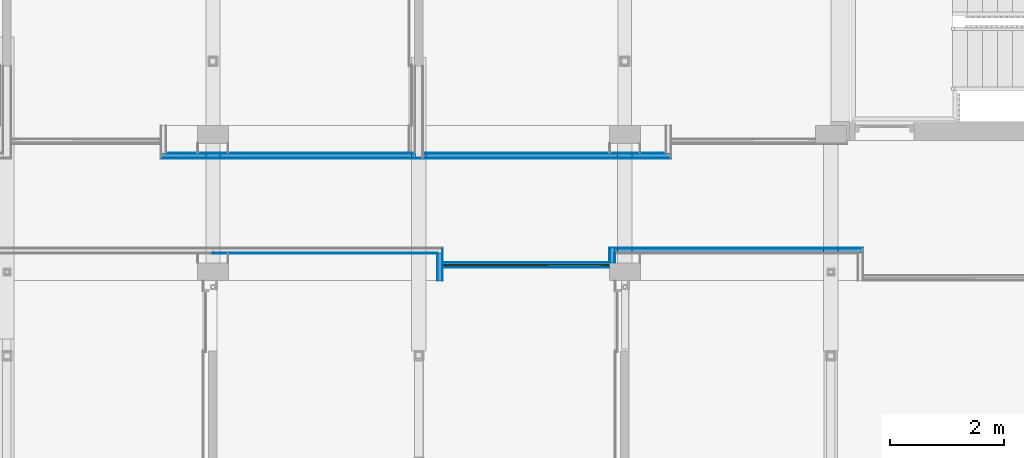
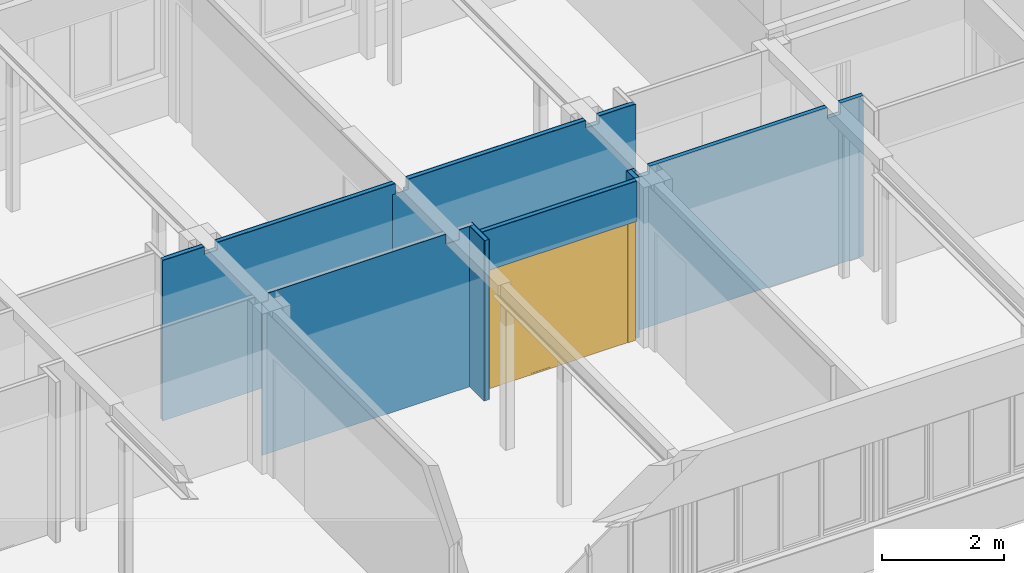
# One storey, part 86 of 117: 18 building element parts, 1 door, 1 opening, 7 elements without a shape of their own.
"""IFC2X3 building model written with IfcOpenShell, lengths in millimetres."""

from ifc_helpers import new_model, entity, si_unit, converted_unit, derived_unit, money_unit, direction, frame, origin_with_axes, place, context, subcontext, project, spatial, open_shell, faceted_brep, surface_model, material, type_object, element, fill, aggregate, save


model = new_model("IFC2X3")

# Units and contexts
model_context = context("Model", 3, precision=0.01, world=origin_with_axes(), true_north=direction((0.0, 1.0)))
body_context = subcontext(model_context, "Body", "Model", "MODEL_VIEW")
ifc_project = project(units=[si_unit("LENGTHUNIT", "METRE", prefix="MILLI"), si_unit("AREAUNIT", "SQUARE_METRE"), si_unit("VOLUMEUNIT", "CUBIC_METRE"), converted_unit("PLANEANGLEUNIT", "DEGREE", entity("IfcPlaneAngleMeasure", 0.0174532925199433), si_unit("PLANEANGLEUNIT", "RADIAN"), dimensions=[0, 0, 0, 0, 0, 0, 0]), money_unit("EUR"), converted_unit("TIMEUNIT", "Year", entity("IfcTimeMeasure", 31557600.0), si_unit("TIMEUNIT", "SECOND"), dimensions=[0, 0, 1, 0, 0, 0, 0]), si_unit("MASSUNIT", "GRAM", prefix="KILO"), si_unit("THERMODYNAMICTEMPERATUREUNIT", "DEGREE_CELSIUS"), si_unit("LUMINOUSINTENSITYUNIT", "LUMEN"), si_unit("ENERGYUNIT", "JOULE", prefix="MEGA"), derived_unit("THERMALCONDUCTANCEUNIT", [(si_unit("POWERUNIT", "WATT"), 1), (si_unit("LENGTHUNIT", "METRE"), -1), (si_unit("THERMODYNAMICTEMPERATUREUNIT", "KELVIN"), -1)]), derived_unit("SPECIFICHEATCAPACITYUNIT", [(si_unit("ENERGYUNIT", "JOULE"), 1), (si_unit("MASSUNIT", "GRAM", prefix="KILO"), -1), (si_unit("THERMODYNAMICTEMPERATUREUNIT", "KELVIN"), -1)]), derived_unit("MASSDENSITYUNIT", [(si_unit("MASSUNIT", "GRAM", prefix="KILO"), 1), (si_unit("VOLUMEUNIT", "CUBIC_METRE"), -1)])], contexts=[model_context])

# Site, building, storey
site_placement = place(None, origin_with_axes())
site = spatial("IfcSite", under=ifc_project, at=site_placement, Name="Site", CompositionType="ELEMENT")
building_placement = place(site_placement, origin_with_axes())
building = spatial("IfcBuilding", under=site, at=building_placement, Name="Naam gebouw", CompositionType="ELEMENT")
storey_placement = place(building_placement, frame((0.0, 0.0, 4150.0), z_axis=(0.0, 0.0, 1.0), x_axis=(1.0, 0.0, 0.0)))
storey = spatial("IfcBuildingStorey", under=building, at=storey_placement, Name="1e verdieping N", CompositionType="ELEMENT", Elevation=4150.0)

# Door
door_style = type_object("IfcDoorStyle", Name="D1 zl2 27", ConstructionType="NOTDEFINED", OperationType="USERDEFINED", ParameterTakesPrecedence=False, Sizeable=False)
wall_5_placement = place(storey_placement, frame((47220.00000000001, 18145.9124251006, 0.0), z_axis=(0.0, 0.0, 1.0), x_axis=(1.0, 0.0, 0.0)))
opening_placement = place(wall_5_placement, frame((1455.000000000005, 0.0, 0.0), z_axis=(0.0, 0.0, 1.0), x_axis=(1.0, 0.0, 0.0)))
door_placement = place(opening_placement, frame((1455.000000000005, 0.0, 0.0), z_axis=(0.0, 0.0, 1.0), x_axis=(-1.0, 0.0, 0.0)))
door = element("IfcDoor", 1, at=door_placement, inside=storey, type_object=door_style, Name="_Merk-x", ObjectType="DOOR", OverallHeight=2400.0, OverallWidth=2910.0, context=body_context, shape_type="SurfaceModel", body=[
    faceted_brep([(2910.000000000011, 10.00000000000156, 0.0), (2910.000000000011, -9.99999999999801, 0.0), (2880.00000000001, -9.99999999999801, 0.0), (2880.00000000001, 10.00000000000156, 0.0), (2910.000000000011, 10.00000000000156, 2370.0), (2910.000000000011, -9.99999999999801, 2370.0), (2880.00000000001, -9.99999999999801, 2370.0), (2880.00000000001, -9.99999999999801, 30.00000000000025), (2880.00000000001, 10.00000000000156, 30.00000000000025), (2880.00000000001, 10.00000000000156, 2370.0)], [[[0, 1, 2, 3]], [[4, 5, 1, 0]], [[1, 5, 6, 7, 2]], [[3, 2, 7, 8]], [[0, 3, 8, 9, 4]], [[9, 6, 5, 4]], [[8, 7, 6, 9]]]),
    faceted_brep([(1060.000000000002, -8.999999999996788, 0.0), (1060.000000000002, -9.99999999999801, 0.0), (1060.000000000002, -9.99999999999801, 2370.0), (1060.000000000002, -8.999999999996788, 2370.0), (1076.999999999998, -8.999999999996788, 0.0), (1076.999999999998, 10.00000000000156, 0.0), (1090.000000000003, 10.00000000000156, 0.0), (1090.000000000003, -9.99999999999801, 0.0), (1090.000000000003, -9.99999999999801, 30.00000000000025), (1090.000000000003, -9.99999999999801, 2370.0), (1076.999999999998, -8.999999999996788, 2370.0), (1090.000000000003, 10.00000000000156, 2370.0), (1076.999999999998, 10.00000000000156, 2370.0), (1090.000000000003, 10.00000000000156, 30.00000000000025)], [[[0, 1, 2, 3]], [[4, 5, 6, 7, 1, 0]], [[7, 8, 9, 2, 1]], [[10, 3, 2, 9, 11, 12]], [[10, 4, 0, 3]], [[12, 5, 4, 10]], [[12, 11, 13, 6, 5]], [[6, 13, 8, 7]], [[13, 11, 9, 8]]]),
    faceted_brep([(2880.00000000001, 10.00000000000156, 30.00000000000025), (2880.00000000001, -9.99999999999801, 30.00000000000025), (2880.00000000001, -9.99999999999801, 0.0), (2880.00000000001, 10.00000000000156, 0.0), (1090.000000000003, 10.00000000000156, 30.00000000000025), (1090.000000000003, -9.99999999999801, 30.00000000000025), (1090.000000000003, -9.99999999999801, 0.0), (1090.000000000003, 10.00000000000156, 0.0)], [[[0, 1, 2, 3]], [[4, 5, 1, 0]], [[1, 5, 6, 2]], [[3, 2, 6, 7]], [[0, 3, 7, 4]], [[7, 6, 5, 4]]]),
    faceted_brep([(0.0, 10.00000000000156, 0.0), (0.0, -9.99999999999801, 0.0), (0.0, -9.99999999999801, 2370.0), (0.0, 10.00000000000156, 2370.0), (30.00000000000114, 10.00000000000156, 0.0), (30.00000000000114, -9.99999999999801, 0.0), (30.00000000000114, -9.99999999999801, 30.00000000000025), (30.00000000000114, -9.99999999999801, 2370.0), (30.00000000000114, 10.00000000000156, 2370.0), (30.00000000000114, 10.00000000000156, 30.00000000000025)], [[[0, 1, 2, 3]], [[4, 5, 1, 0]], [[1, 5, 6, 7, 2]], [[3, 2, 7, 8]], [[0, 3, 8, 9, 4]], [[9, 6, 5, 4]], [[8, 7, 6, 9]]]),
    faceted_brep([(143.0000000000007, -8.999999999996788, 2370.0), (143.0000000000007, 10.00000000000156, 2370.0), (130.0000000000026, 10.00000000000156, 2370.0), (130.0000000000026, -9.99999999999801, 2370.0), (160.0000000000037, -9.99999999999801, 2370.0), (160.0000000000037, -8.999999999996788, 2370.0), (143.0000000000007, -8.999999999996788, 0.0), (143.0000000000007, 10.00000000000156, 0.0), (130.0000000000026, 10.00000000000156, 0.0), (130.0000000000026, 10.00000000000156, 30.00000000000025), (130.0000000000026, -9.99999999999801, 30.00000000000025), (160.0000000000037, -9.99999999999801, 0.0), (130.0000000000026, -9.99999999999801, 0.0), (160.0000000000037, -8.999999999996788, 0.0)], [[[0, 1, 2, 3, 4, 5]], [[0, 6, 7, 1]], [[7, 8, 9, 2, 1]], [[2, 9, 10, 3]], [[11, 4, 3, 10, 12]], [[5, 4, 11, 13]], [[5, 13, 6, 0]], [[6, 13, 11, 12, 8, 7]], [[9, 8, 12, 10]]]),
    faceted_brep([(130.0000000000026, 10.00000000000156, 30.00000000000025), (130.0000000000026, -9.99999999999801, 30.00000000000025), (130.0000000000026, -9.99999999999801, 0.0), (130.0000000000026, 10.00000000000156, 0.0), (30.00000000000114, 10.00000000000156, 30.00000000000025), (30.00000000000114, -9.99999999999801, 30.00000000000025), (30.00000000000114, -9.99999999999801, 0.0), (30.00000000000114, 10.00000000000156, 0.0)], [[[0, 1, 2, 3]], [[4, 5, 1, 0]], [[1, 5, 6, 2]], [[3, 2, 6, 7]], [[0, 3, 7, 4]], [[7, 6, 5, 4]]]),
    faceted_brep([(1076.999999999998, 10.00000000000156, 2387.0), (143.0000000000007, 10.00000000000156, 2387.0), (143.0000000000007, 10.00000000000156, 2370.0), (130.0000000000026, 10.00000000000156, 2370.0), (30.00000000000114, 10.00000000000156, 2370.0), (0.0, 10.00000000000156, 2370.0), (0.0, 10.00000000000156, 2400.0), (2910.000000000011, 10.00000000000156, 2400.0), (2910.000000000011, 10.00000000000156, 2370.0), (2880.00000000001, 10.00000000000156, 2370.0), (1090.000000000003, 10.00000000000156, 2370.0), (1076.999999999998, 10.00000000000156, 2370.0), (1076.999999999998, -8.999999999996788, 2387.0), (143.0000000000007, -8.999999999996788, 2387.0), (143.0000000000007, -8.999999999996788, 2370.0), (160.0000000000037, -8.999999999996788, 2370.0), (160.0000000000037, -9.99999999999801, 2370.0), (130.0000000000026, -9.99999999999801, 2370.0), (30.00000000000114, -9.99999999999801, 2370.0), (0.0, -9.99999999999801, 2370.0), (0.0, -9.99999999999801, 2400.0), (2910.000000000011, -9.99999999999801, 2400.0), (2910.000000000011, -9.99999999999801, 2370.0), (2880.00000000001, -9.99999999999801, 2370.0), (1090.000000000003, -9.99999999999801, 2370.0), (1076.999999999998, -8.999999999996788, 2370.0), (1060.000000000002, -9.99999999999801, 2370.0)], [[[0, 1, 2, 3, 4, 5, 6, 7, 8, 9, 10, 11]], [[0, 12, 13, 1]], [[1, 13, 14, 2]], [[14, 15, 16, 17, 18, 4, 3, 2]], [[5, 4, 18, 19]], [[6, 5, 19, 20]], [[7, 6, 20, 21]], [[8, 7, 21, 22]], [[9, 8, 22, 23]], [[10, 9, 23, 24]], [[25, 11, 10, 24, 26, 16, 15]], [[11, 25, 12, 0]], [[14, 13, 12, 25, 15]], [[18, 17, 16, 26, 24, 23, 22, 21, 20, 19]]]),
    faceted_brep([(143.0000000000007, 1.000000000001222, 0.0), (1076.999999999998, 1.000000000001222, 0.0), (1076.999999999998, -8.999999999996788, 0.0), (143.0000000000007, -8.999999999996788, 0.0), (143.0000000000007, 1.000000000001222, 2387.0), (1076.999999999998, 1.000000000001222, 2387.0), (1076.999999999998, -9.000000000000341, 2387.0), (143.0000000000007, -9.000000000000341, 2387.0)], [[[0, 1, 2, 3]], [[0, 4, 5, 1]], [[1, 5, 6, 2]], [[3, 2, 6, 7]], [[4, 0, 3, 7]], [[5, 4, 7, 6]]]),
    surface_model("IfcShellBasedSurfaceModel", [(2880.00000000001, 9.000000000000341, 30.00000000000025), (1090.000000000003, 9.000000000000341, 30.00000000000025), (1090.000000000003, 9.000000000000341, 2370.0), (2880.00000000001, 9.000000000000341, 2370.0)], [open_shell([[[0, 1, 2, 3]]])]),
    surface_model("IfcShellBasedSurfaceModel", [(2880.00000000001, 1.000000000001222, 30.00000000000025), (2880.00000000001, 1.000000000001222, 2370.0), (1090.000000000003, 1.000000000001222, 2370.0), (1090.000000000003, 1.000000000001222, 30.00000000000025)], [open_shell([[[0, 1, 2, 3]]])]),
    surface_model("IfcShellBasedSurfaceModel", [(130.0000000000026, 9.000000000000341, 30.00000000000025), (30.00000000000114, 9.000000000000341, 30.00000000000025), (30.00000000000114, 9.000000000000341, 2370.0), (130.0000000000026, 9.000000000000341, 2370.0)], [open_shell([[[0, 1, 2, 3]]])]),
    surface_model("IfcShellBasedSurfaceModel", [(130.0000000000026, 1.000000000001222, 30.00000000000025), (130.0000000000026, 1.000000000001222, 2370.0), (30.00000000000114, 1.000000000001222, 2370.0), (30.00000000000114, 1.000000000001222, 30.00000000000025)], [open_shell([[[0, 1, 2, 3]]])]),
])

# Wall, building element parts
wall_type = type_object("IfcWallType", Name="Metalstud iso 100 100", PredefinedType="NOTDEFINED")
wall_1_placement = place(storey_placement, frame((50229.99999999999, 18345.9124251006, 0.0), z_axis=(0.0, 0.0, 1.0), x_axis=(1.0, 0.0, 0.0)))
wall_1 = element("IfcWall", 2, at=wall_1_placement, inside=storey, type_object=wall_type, Name="_Wand-x")
ifc_material_1 = material(Name="Gipsplaat")
building_element_part_1_placement = place(wall_1_placement, origin_with_axes())
building_element_part_1 = element("IfcBuildingElementPart", 3, at=building_element_part_1_placement, material=ifc_material_1, Name="Gipsplaat", context=body_context, shape_type="Brep", body=[
    faceted_brep([(3644.999999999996, 100.0000000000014, 2980.0), (3894.999999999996, 100.0000000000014, 2980.0), (3894.999999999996, 100.0000000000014, 3200.0), (4339.999999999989, 100.0000000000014, 3200.0), (4339.999999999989, 100.0000000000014, 0.0), (-87.49999999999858, 100.0000000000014, 0.0), (-87.49999999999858, 100.0000000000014, 3200.0), (45.00000000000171, 100.0000000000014, 3200.0), (45.00000000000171, 100.0000000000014, 3049.999999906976), (295.0000000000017, 100.0000000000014, 3049.999999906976), (295.0000000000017, 100.0000000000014, 3200.0), (3644.999999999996, 100.0000000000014, 3200.0), (3644.999999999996, 87.50000000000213, 2980.0), (3894.999999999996, 87.50000000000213, 2980.0), (3894.999999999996, 87.50000000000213, 3200.0), (4339.999999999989, 87.50000000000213, 3200.0), (4339.999999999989, 87.49999999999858, 0.0), (-87.49999999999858, 87.49999999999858, 0.0), (-87.49999999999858, 87.49999999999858, 3200.0), (45.00000000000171, 87.49999999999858, 3200.0), (45.00000000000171, 87.50000000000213, 3049.999999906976), (295.0000000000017, 87.50000000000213, 3049.999999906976), (295.0000000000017, 87.49999999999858, 3200.0), (3644.999999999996, 87.50000000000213, 3200.0)], [[[0, 1, 2, 3, 4, 5, 6, 7, 8, 9, 10, 11]], [[1, 0, 12, 13]], [[14, 2, 1, 13]], [[2, 14, 15, 3]], [[4, 3, 15, 16]], [[5, 4, 16, 17]], [[17, 18, 6, 5]], [[19, 7, 6, 18]], [[8, 7, 19, 20]], [[9, 8, 20, 21]], [[22, 10, 9, 21]], [[23, 11, 10, 22]], [[0, 11, 23, 12]], [[12, 23, 22, 21, 20, 19, 18, 17, 16, 15, 14, 13]]]),
])
ifc_material_2 = material(Name="Isolatie - Steenwol LSW")
building_element_part_2_placement = place(wall_1_placement, origin_with_axes())
building_element_part_2 = element("IfcBuildingElementPart", 4, at=building_element_part_2_placement, material=ifc_material_2, Name="Isolatie - Steenwol LSW", context=body_context, shape_type="Brep", body=[
    faceted_brep([(3644.999999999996, 87.49999999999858, 2980.0), (3894.999999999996, 87.49999999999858, 2980.0), (3894.999999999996, 87.50000000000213, 3200.0), (4327.499999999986, 87.50000000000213, 3200.0), (4327.499999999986, 87.49999999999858, 0.0), (-12.50000000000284, 87.49999999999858, 0.0), (-12.50000000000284, 87.49999999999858, 3200.0), (45.00000000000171, 87.49999999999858, 3200.0), (45.00000000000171, 87.49999999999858, 3049.999999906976), (295.0000000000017, 87.49999999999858, 3049.999999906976), (295.0000000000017, 87.49999999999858, 3200.0), (3644.999999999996, 87.50000000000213, 3200.0), (3644.999999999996, 12.49999999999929, 2980.0), (3894.999999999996, 12.49999999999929, 2980.0), (3894.999999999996, 12.49999999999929, 3200.0), (4327.499999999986, 12.49999999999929, 3200.0), (4327.499999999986, 12.49999999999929, 0.0), (-12.50000000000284, 12.49999999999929, 0.0), (-12.50000000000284, 12.49999999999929, 3200.0), (45.00000000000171, 12.49999999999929, 3200.0), (45.00000000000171, 12.49999999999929, 3049.999999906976), (295.0000000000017, 12.49999999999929, 3049.999999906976), (295.0000000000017, 12.49999999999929, 3200.0), (3644.999999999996, 12.49999999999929, 3200.0)], [[[0, 1, 2, 3, 4, 5, 6, 7, 8, 9, 10, 11]], [[1, 0, 12, 13]], [[14, 2, 1, 13]], [[2, 14, 15, 3]], [[4, 3, 15, 16]], [[5, 4, 16, 17]], [[17, 18, 6, 5]], [[19, 7, 6, 18]], [[8, 7, 19, 20]], [[9, 8, 20, 21]], [[22, 10, 9, 21]], [[23, 11, 10, 22]], [[0, 11, 23, 12]], [[12, 23, 22, 21, 20, 19, 18, 17, 16, 15, 14, 13]]]),
])
aggregate(wall_1, [building_element_part_1, building_element_part_2])

wall_2_placement = place(storey_placement, frame((50229.99999999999, 18180.91242510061, 0.0), z_axis=(0.0, 0.0, 1.0), x_axis=(0.0, 1.0, 0.0)))
wall_2 = element("IfcWall", 5, at=wall_2_placement, inside=storey, type_object=wall_type, Name="_Wand-x")
building_element_part_3_placement = place(wall_2_placement, origin_with_axes())
building_element_part_3 = element("IfcBuildingElementPart", 6, at=building_element_part_3_placement, material=ifc_material_2, Name="Isolatie - Steenwol LSW", context=body_context, shape_type="Brep", body=[
    faceted_brep([(252.4999999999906, 87.49999999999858, 0.0), (252.4999999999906, 87.49999999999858, 3200.0), (252.4999999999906, 12.50000000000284, 3200.0), (252.4999999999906, 12.50000000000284, 0.0), (0.0, 87.49999999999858, 0.0), (0.0, 87.49999999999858, 3200.0), (0.0, 12.50000000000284, 3200.0), (0.0, 12.50000000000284, 0.0)], [[[0, 1, 2, 3]], [[4, 5, 1, 0]], [[5, 6, 2, 1]], [[3, 2, 6, 7]], [[4, 0, 3, 7]], [[7, 6, 5, 4]]]),
])
building_element_part_4_placement = place(wall_2_placement, origin_with_axes())
building_element_part_4 = element("IfcBuildingElementPart", 7, at=building_element_part_4_placement, material=ifc_material_1, Name="Gipsplaat", context=body_context, shape_type="Brep", body=[
    faceted_brep([(264.9999999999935, 100.0000000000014, 0.0), (264.9999999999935, 100.0000000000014, 3200.0), (264.9999999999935, 87.49999999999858, 3200.0), (264.9999999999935, 87.49999999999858, 0.0), (0.0, 100.0000000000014, 0.0), (0.0, 100.0000000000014, 3200.0), (0.0, 87.49999999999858, 3200.0), (0.0, 87.49999999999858, 0.0)], [[[0, 1, 2, 3]], [[4, 5, 1, 0]], [[5, 6, 2, 1]], [[3, 2, 6, 7]], [[4, 0, 3, 7]], [[7, 6, 5, 4]]]),
])
building_element_part_5_placement = place(wall_2_placement, origin_with_axes())
building_element_part_5 = element("IfcBuildingElementPart", 8, at=building_element_part_5_placement, material=ifc_material_1, Name="Gipsplaat", context=body_context, shape_type="Brep", body=[
    faceted_brep([(177.4999999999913, 12.50000000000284, 0.0), (177.4999999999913, 12.50000000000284, 3200.0), (177.4999999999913, 0.0, 3200.0), (177.4999999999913, 0.0, 0.0), (0.0, 12.50000000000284, 0.0), (0.0, 12.50000000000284, 3200.0), (0.0, 0.0, 3200.0), (0.0, 0.0, 0.0)], [[[0, 1, 2, 3]], [[4, 5, 1, 0]], [[5, 6, 2, 1]], [[3, 2, 6, 7]], [[4, 0, 3, 7]], [[7, 6, 5, 4]]]),
])
aggregate(wall_2, [building_element_part_3, building_element_part_4, building_element_part_5])

wall_3_placement = place(storey_placement, frame((46800.00000000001, 20105.91242510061, 0.0), z_axis=(0.0, 0.0, 1.0), x_axis=(-1.0, 0.0, 0.0)))
wall_3 = element("IfcWall", 9, at=wall_3_placement, inside=storey, type_object=wall_type, Name="_Wand-x")
building_element_part_6_placement = place(wall_3_placement, origin_with_axes())
building_element_part_6 = element("IfcBuildingElementPart", 10, at=building_element_part_6_placement, material=ifc_material_1, Name="Gipsplaat", context=body_context, shape_type="Brep", body=[
    faceted_brep([(125.0, 99.99999999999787, 3200.0), (125.0, 87.49999999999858, 3200.0), (3475.000000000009, 87.49999999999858, 3200.0), (3475.000000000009, 100.0000000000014, 3200.0), (125.0, 87.49999999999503, 3000.0), (125.0, 99.99999999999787, 3000.0), (175.0000000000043, 87.49999999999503, 3000.0), (175.0000000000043, 87.49999999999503, 0.0), (4515.000000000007, 87.49999999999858, 0.0), (4515.000000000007, 87.49999999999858, 3200.0), (3725.000000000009, 87.49999999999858, 3200.0), (3725.000000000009, 87.49999999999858, 3049.999999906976), (3475.000000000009, 87.49999999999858, 3049.999999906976), (3475.000000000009, 99.99999999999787, 3049.999999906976), (3725.000000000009, 99.99999999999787, 3049.999999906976), (3725.000000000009, 100.0000000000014, 3200.0), (4515.000000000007, 100.0000000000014, 3200.0), (4515.000000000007, 100.0000000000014, 0.0), (175.0000000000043, 99.99999999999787, 0.0), (175.0000000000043, 99.99999999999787, 3000.0)], [[[0, 1, 2, 3]], [[4, 1, 0, 5]], [[1, 4, 6, 7, 8, 9, 10, 11, 12, 2]], [[3, 2, 12, 13]], [[5, 0, 3, 13, 14, 15, 16, 17, 18, 19]], [[4, 5, 19, 6]], [[19, 18, 7, 6]], [[17, 8, 7, 18]], [[17, 16, 9, 8]], [[15, 10, 9, 16]], [[11, 10, 15, 14]], [[12, 11, 14, 13]]]),
])
building_element_part_7_placement = place(wall_3_placement, origin_with_axes())
building_element_part_7 = element("IfcBuildingElementPart", 11, at=building_element_part_7_placement, material=ifc_material_2, Name="Isolatie - Steenwol LSW", context=body_context, shape_type="Brep", body=[
    faceted_brep([(125.0, 12.49999999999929, 3200.0), (125.0, 12.49999999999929, 3000.0), (62.5, 12.49999999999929, 3000.0), (62.5, 12.49999999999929, 0.0), (4502.500000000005, 12.49999999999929, 0.0), (4502.500000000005, 12.49999999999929, 3200.0), (3725.000000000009, 12.49999999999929, 3200.0), (3725.000000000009, 12.49999999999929, 3049.999999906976), (3475.000000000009, 12.49999999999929, 3049.999999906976), (3475.000000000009, 12.49999999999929, 3200.0), (125.0, 87.49999999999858, 3200.0), (125.0, 87.49999999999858, 3000.0), (62.5, 87.49999999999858, 3000.0), (62.5, 87.49999999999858, 0.0), (4502.500000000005, 87.49999999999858, 0.0), (4502.500000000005, 87.49999999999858, 3200.0), (3725.000000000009, 87.49999999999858, 3200.0), (3725.000000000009, 87.49999999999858, 3049.999999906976), (3475.000000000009, 87.49999999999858, 3049.999999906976), (3475.000000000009, 87.49999999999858, 3200.0)], [[[0, 1, 2, 3, 4, 5, 6, 7, 8, 9]], [[1, 0, 10, 11]], [[12, 2, 1, 11]], [[2, 12, 13, 3]], [[14, 4, 3, 13]], [[14, 15, 5, 4]], [[16, 6, 5, 15]], [[7, 6, 16, 17]], [[8, 7, 17, 18]], [[19, 9, 8, 18]], [[10, 0, 9, 19]], [[11, 10, 19, 18, 17, 16, 15, 14, 13, 12]]]),
])
building_element_part_8_placement = place(wall_3_placement, origin_with_axes())
building_element_part_8 = element("IfcBuildingElementPart", 12, at=building_element_part_8_placement, material=ifc_material_1, Name="Gipsplaat", context=body_context, shape_type="Brep", body=[
    faceted_brep([(125.0, 0.0, 3200.0), (125.0, 0.0, 3000.0), (62.5, 0.0, 3000.0), (62.5, 0.0, 0.0), (4427.500000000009, 0.0, 0.0), (4427.500000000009, 0.0, 3200.0), (3725.000000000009, 0.0, 3200.0), (3725.000000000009, 0.0, 3049.999999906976), (3475.000000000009, 0.0, 3049.999999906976), (3475.000000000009, 0.0, 3200.0), (125.0, 12.49999999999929, 3200.0), (125.0, 12.49999999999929, 3000.0), (62.5, 12.49999999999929, 3000.0), (62.5, 12.49999999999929, 0.0), (4427.500000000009, 12.49999999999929, 0.0), (4427.500000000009, 12.49999999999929, 3200.0), (3725.000000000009, 12.49999999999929, 3200.0), (3725.000000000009, 12.49999999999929, 3049.999999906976), (3475.000000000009, 12.49999999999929, 3049.999999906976), (3475.000000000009, 12.49999999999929, 3200.0)], [[[0, 1, 2, 3, 4, 5, 6, 7, 8, 9]], [[1, 0, 10, 11]], [[12, 2, 1, 11]], [[2, 12, 13, 3]], [[14, 4, 3, 13]], [[14, 15, 5, 4]], [[16, 6, 5, 15]], [[7, 6, 16, 17]], [[8, 7, 17, 18]], [[19, 9, 8, 18]], [[10, 0, 9, 19]], [[11, 10, 19, 18, 17, 16, 15, 14, 13, 12]]]),
])
aggregate(wall_3, [building_element_part_6, building_element_part_7, building_element_part_8])

wall_4_placement = place(storey_placement, frame((46800.00000000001, 20105.91242510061, 0.0), z_axis=(0.0, 0.0, 1.0), x_axis=(1.0, 0.0, 0.0)))
wall_4 = element("IfcWall", 13, at=wall_4_placement, inside=storey, type_object=wall_type, Name="_Wand-x")
building_element_part_9_placement = place(wall_4_placement, origin_with_axes())
building_element_part_9 = element("IfcBuildingElementPart", 14, at=building_element_part_9_placement, material=ifc_material_1, Name="Gipsplaat", context=body_context, shape_type="Brep", body=[
    faceted_brep([(75.00000000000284, 0.0, 3000.0), (125.0, 0.0, 3000.0), (125.0, 0.0, 3200.0), (3474.999999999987, 0.0, 3200.0), (3474.999999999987, 0.0, 3049.999999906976), (3724.999999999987, 0.0, 3049.999999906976), (3724.999999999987, 0.0, 3200.0), (4327.500000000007, 0.0, 3200.0), (4327.500000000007, 0.0, 0.0), (75.00000000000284, 0.0, 0.0), (75.00000000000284, -12.49999999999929, 3000.0), (125.0, -12.49999999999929, 3000.0), (125.0, -12.49999999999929, 3200.0), (3474.999999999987, -12.49999999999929, 3200.0), (3474.999999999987, -12.49999999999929, 3049.999999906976), (3724.999999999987, -12.49999999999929, 3049.999999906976), (3724.999999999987, -12.49999999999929, 3200.0), (4327.500000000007, -12.49999999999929, 3200.0), (4327.500000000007, -12.49999999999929, 0.0), (75.00000000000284, -12.49999999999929, 0.0)], [[[0, 1, 2, 3, 4, 5, 6, 7, 8, 9]], [[1, 0, 10, 11]], [[12, 2, 1, 11]], [[2, 12, 13, 3]], [[4, 3, 13, 14]], [[5, 4, 14, 15]], [[16, 6, 5, 15]], [[6, 16, 17, 7]], [[8, 7, 17, 18]], [[8, 18, 19, 9]], [[10, 0, 9, 19]], [[11, 10, 19, 18, 17, 16, 15, 14, 13, 12]]]),
])
building_element_part_10_placement = place(wall_4_placement, origin_with_axes())
building_element_part_10 = element("IfcBuildingElementPart", 15, at=building_element_part_10_placement, material=ifc_material_2, Name="Isolatie - Steenwol LSW", context=body_context, shape_type="Brep", body=[
    faceted_brep([(75.00000000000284, -12.49999999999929, 3000.0), (125.0, -12.49999999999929, 3000.0), (125.0, -12.49999999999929, 3200.0), (3474.999999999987, -12.49999999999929, 3200.0), (3474.999999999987, -12.49999999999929, 3049.999999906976), (3724.999999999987, -12.49999999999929, 3049.999999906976), (3724.999999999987, -12.49999999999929, 3200.0), (4402.500000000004, -12.49999999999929, 3200.0), (4402.500000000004, -12.49999999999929, 0.0), (75.00000000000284, -12.49999999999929, 0.0), (75.00000000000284, -87.50000000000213, 3000.0), (125.0, -87.49999999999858, 3000.0), (125.0, -87.49999999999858, 3200.0), (3474.999999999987, -87.49999999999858, 3200.0), (3474.999999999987, -87.49999999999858, 3049.999999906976), (3724.999999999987, -87.49999999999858, 3049.999999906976), (3724.999999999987, -87.49999999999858, 3200.0), (4402.500000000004, -87.49999999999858, 3200.0), (4402.500000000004, -87.49999999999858, 0.0), (75.00000000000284, -87.50000000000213, 0.0)], [[[0, 1, 2, 3, 4, 5, 6, 7, 8, 9]], [[1, 0, 10, 11]], [[12, 2, 1, 11]], [[2, 12, 13, 3]], [[4, 3, 13, 14]], [[5, 4, 14, 15]], [[16, 6, 5, 15]], [[6, 16, 17, 7]], [[8, 7, 17, 18]], [[8, 18, 19, 9]], [[10, 0, 9, 19]], [[11, 10, 19, 18, 17, 16, 15, 14, 13, 12]]]),
])
building_element_part_11_placement = place(wall_4_placement, origin_with_axes())
building_element_part_11 = element("IfcBuildingElementPart", 16, at=building_element_part_11_placement, material=ifc_material_1, Name="Gipsplaat", context=body_context, shape_type="Brep", body=[
    faceted_brep([(0.0, -87.49999999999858, 3000.0), (125.0, -87.49999999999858, 3000.0), (125.0, -87.49999999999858, 3200.0), (3474.999999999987, -87.49999999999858, 3200.0), (3474.999999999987, -87.49999999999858, 3049.999999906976), (3724.999999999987, -87.49999999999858, 3049.999999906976), (3724.999999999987, -87.49999999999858, 3200.0), (4415.000000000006, -87.49999999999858, 3200.0), (4415.000000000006, -87.49999999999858, 0.0), (-175.0000000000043, -87.49999999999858, 0.0), (-175.0000000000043, -87.49999999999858, 3000.0), (-175.0000000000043, -100.0000000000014, 3000.0), (0.0, -100.0000000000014, 3000.0), (125.0, -99.99999999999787, 3000.0), (125.0, -100.0000000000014, 3200.0), (3474.999999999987, -99.99999999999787, 3200.0), (3474.999999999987, -99.99999999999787, 3049.999999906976), (3724.999999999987, -99.99999999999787, 3049.999999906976), (3724.999999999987, -99.99999999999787, 3200.0), (4415.000000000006, -99.99999999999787, 3200.0), (4415.000000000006, -100.0000000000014, 0.0), (-175.0000000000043, -100.0000000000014, 0.0)], [[[0, 1, 2, 3, 4, 5, 6, 7, 8, 9, 10]], [[1, 0, 10, 11, 12, 13]], [[14, 2, 1, 13]], [[2, 14, 15, 3]], [[4, 3, 15, 16]], [[5, 4, 16, 17]], [[18, 6, 5, 17]], [[6, 18, 19, 7]], [[8, 7, 19, 20]], [[8, 20, 21, 9]], [[10, 9, 21, 11]], [[13, 12, 11, 21, 20, 19, 18, 17, 16, 15, 14]]]),
])
aggregate(wall_4, [building_element_part_9, building_element_part_10, building_element_part_11])

# Wall, opening
wall_5 = element("IfcWall", 17, at=wall_5_placement, inside=storey, type_object=wall_type, Name="_Wand-x")
opening = element("IfcOpeningElement", 18, at=opening_placement, cuts=wall_5, Name="_Merk-x", context=body_context, shape_type="Brep", body=[
    faceted_brep([(1455.000000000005, -10.00000000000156, 0.0), (1455.000000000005, -10.00000000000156, 2400.0), (1455.000000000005, -51.00000000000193, 2400.0), (1455.000000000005, -51.00000000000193, 0.0), (1455.000000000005, 51.00000000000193, 0.0), (1455.000000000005, 51.00000000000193, 2400.0), (-1455.000000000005, -10.00000000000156, 2400.0), (-1455.000000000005, -51.00000000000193, 2400.0), (-1455.000000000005, 51.00000000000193, 2400.0), (-1455.000000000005, -51.00000000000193, 0.0), (-1455.000000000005, -10.00000000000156, 0.0), (-1455.000000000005, 51.00000000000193, 0.0)], [[[0, 1, 2, 3]], [[1, 0, 4, 5]], [[6, 7, 2, 1, 5, 8]], [[7, 9, 3, 2]], [[0, 3, 9, 10, 11, 4]], [[5, 4, 11, 8]], [[6, 10, 9, 7]], [[10, 6, 8, 11]]]),
])

fill(opening, door)

# Building element part
building_element_part_12_placement = place(wall_5_placement, origin_with_axes())
building_element_part_12 = element("IfcBuildingElementPart", 19, at=building_element_part_12_placement, material=ifc_material_1, Name="Gipsplaat", context=body_context, shape_type="Brep", body=[
    faceted_brep([(2910.000000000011, 37.50000000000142, 2400.0), (2910.000000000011, 50.00000000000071, 2400.0), (2910.000000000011, 50.00000000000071, 3200.0), (2910.000000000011, 37.50000000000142, 3200.0), (0.0, 50.00000000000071, 2400.0), (0.0, 37.50000000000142, 2400.0), (0.0, 50.00000000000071, 3200.0), (0.0, 37.50000000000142, 3200.0)], [[[0, 1, 2, 3]], [[4, 1, 0, 5]], [[1, 4, 6, 2]], [[2, 6, 7, 3]], [[5, 0, 3, 7]], [[4, 5, 7, 6]]]),
])

building_element_part_13_placement = place(wall_5_placement, origin_with_axes())
building_element_part_13 = element("IfcBuildingElementPart", 20, at=building_element_part_13_placement, material=ifc_material_1, Name="Gipsplaat", context=body_context, shape_type="Brep", body=[
    faceted_brep([(2910.000000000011, -50.00000000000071, 2400.0), (2910.000000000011, -37.49999999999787, 2400.0), (2910.000000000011, -37.49999999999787, 3200.0), (2910.000000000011, -50.00000000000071, 3200.0), (0.0, -37.50000000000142, 2400.0), (0.0, -50.00000000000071, 2400.0), (0.0, -37.50000000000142, 3200.0), (0.0, -50.00000000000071, 3200.0)], [[[0, 1, 2, 3]], [[4, 1, 0, 5]], [[1, 4, 6, 2]], [[3, 2, 6, 7]], [[5, 0, 3, 7]], [[4, 5, 7, 6]]]),
])

building_element_part_14_placement = place(wall_5_placement, origin_with_axes())
building_element_part_14 = element("IfcBuildingElementPart", 21, at=building_element_part_14_placement, material=ifc_material_2, Name="Isolatie - Steenwol LSW", context=body_context, shape_type="Brep", body=[
    faceted_brep([(2910.000000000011, -10.00000000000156, 2400.0), (2910.000000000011, 37.50000000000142, 2400.0), (2910.000000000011, 37.50000000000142, 3200.0), (2910.000000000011, -37.49999999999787, 3200.0), (2910.000000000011, -37.49999999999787, 2400.0), (0.0, -10.00000000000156, 2400.0), (0.0, 37.50000000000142, 2400.0), (0.0, -37.50000000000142, 2400.0), (0.0, 37.50000000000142, 3200.0), (0.0, -37.50000000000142, 3200.0)], [[[0, 1, 2, 3, 4]], [[5, 6, 1, 0, 4, 7]], [[1, 6, 8, 2]], [[2, 8, 9, 3]], [[4, 3, 9, 7]], [[6, 5, 7, 9, 8]]]),
])

aggregate(wall_5, [building_element_part_12, building_element_part_13, building_element_part_14])

# Wall, building element part
wall_6_placement = place(storey_placement, frame((43199.99999999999, 18345.9124251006, 0.0), z_axis=(0.0, 0.0, 1.0), x_axis=(1.0, 0.0, 0.0)))
wall_6 = element("IfcWall", 22, at=wall_6_placement, inside=storey, type_object=wall_type, Name="_Wand-x")
building_element_part_15_placement = place(wall_6_placement, origin_with_axes())
building_element_part_15 = element("IfcBuildingElementPart", 23, at=building_element_part_15_placement, material=ifc_material_1, Name="Gipsplaat", context=body_context, shape_type="Brep", body=[
    faceted_brep([(3475.000000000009, 12.49999999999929, 3000.0), (3725.000000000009, 12.49999999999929, 3000.0), (3725.000000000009, 12.49999999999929, 3200.0), (3932.500000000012, 12.49999999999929, 3200.0), (3932.500000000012, 12.49999999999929, 0.0), (0.0, 12.49999999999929, 0.0), (0.0, 12.49999999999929, 3049.999999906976), (125.0, 12.49999999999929, 3049.999999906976), (125.0, 12.49999999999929, 3200.0), (3475.000000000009, 12.49999999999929, 3200.0), (3475.000000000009, 0.0, 3000.0), (3725.000000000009, 0.0, 3000.0), (3725.000000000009, 0.0, 3200.0), (3932.500000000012, 0.0, 3200.0), (3932.500000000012, 0.0, 0.0), (0.0, 0.0, 0.0), (0.0, 0.0, 3049.999999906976), (125.0, 0.0, 3049.999999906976), (125.0, 0.0, 3200.0), (3475.000000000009, 0.0, 3200.0)], [[[0, 1, 2, 3, 4, 5, 6, 7, 8, 9]], [[1, 0, 10, 11]], [[12, 2, 1, 11]], [[2, 12, 13, 3]], [[4, 3, 13, 14]], [[5, 4, 14, 15]], [[16, 6, 5, 15]], [[7, 6, 16, 17]], [[18, 8, 7, 17]], [[19, 9, 8, 18]], [[0, 9, 19, 10]], [[10, 19, 18, 17, 16, 15, 14, 13, 12, 11]]]),
])
aggregate(wall_6, [building_element_part_15])

# Wall, building element parts
wall_7_placement = place(storey_placement, frame((47120.00000000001, 17870.91242510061, 0.0), z_axis=(0.0, 0.0, 1.0), x_axis=(0.0, 1.0, 0.0)))
wall_7 = element("IfcWall", 24, at=wall_7_placement, inside=storey, type_object=wall_type, Name="_Wand-x")
building_element_part_16_placement = place(wall_7_placement, origin_with_axes())
building_element_part_16 = element("IfcBuildingElementPart", 25, at=building_element_part_16_placement, material=ifc_material_1, Name="Gipsplaat", context=body_context, shape_type="Brep", body=[
    faceted_brep([(474.9999999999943, 0.0, 3200.0), (474.9999999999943, -12.50000000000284, 3200.0), (474.9999999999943, -12.50000000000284, 0.0), (474.9999999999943, 0.0, 0.0), (0.0, -12.50000000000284, 3200.0), (0.0, 0.0, 3200.0), (0.0, -12.50000000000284, 0.0), (0.0, 0.0, 0.0)], [[[0, 1, 2, 3]], [[4, 1, 0, 5]], [[1, 4, 6, 2]], [[3, 2, 6, 7]], [[5, 0, 3, 7]], [[4, 5, 7, 6]]]),
])
building_element_part_17_placement = place(wall_7_placement, origin_with_axes())
building_element_part_17 = element("IfcBuildingElementPart", 26, at=building_element_part_17_placement, material=ifc_material_2, Name="Isolatie - Steenwol LSW", context=body_context, shape_type="Brep", body=[
    faceted_brep([(487.4999999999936, -12.50000000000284, 3200.0), (487.4999999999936, -87.49999999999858, 3200.0), (487.4999999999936, -87.49999999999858, 0.0), (487.4999999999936, -12.50000000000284, 0.0), (0.0, -87.49999999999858, 3200.0), (0.0, -12.50000000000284, 3200.0), (0.0, -87.49999999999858, 0.0), (0.0, -12.50000000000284, 0.0)], [[[0, 1, 2, 3]], [[4, 1, 0, 5]], [[1, 4, 6, 2]], [[3, 2, 6, 7]], [[5, 0, 3, 7]], [[4, 5, 7, 6]]]),
])
building_element_part_18_placement = place(wall_7_placement, origin_with_axes())
building_element_part_18 = element("IfcBuildingElementPart", 27, at=building_element_part_18_placement, material=ifc_material_1, Name="Gipsplaat", context=body_context, shape_type="Brep", body=[
    faceted_brep([(562.499999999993, -87.49999999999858, 3200.0), (562.499999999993, -100.0000000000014, 3200.0), (562.499999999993, -100.0000000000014, 0.0), (562.499999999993, -87.49999999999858, 0.0), (0.0, -100.0000000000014, 3200.0), (0.0, -87.49999999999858, 3200.0), (0.0, -100.0000000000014, 0.0), (0.0, -87.49999999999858, 0.0)], [[[0, 1, 2, 3]], [[4, 1, 0, 5]], [[1, 4, 6, 2]], [[3, 2, 6, 7]], [[5, 0, 3, 7]], [[4, 5, 7, 6]]]),
])
aggregate(wall_7, [building_element_part_16, building_element_part_17, building_element_part_18])

save(model, "model.ifc")
